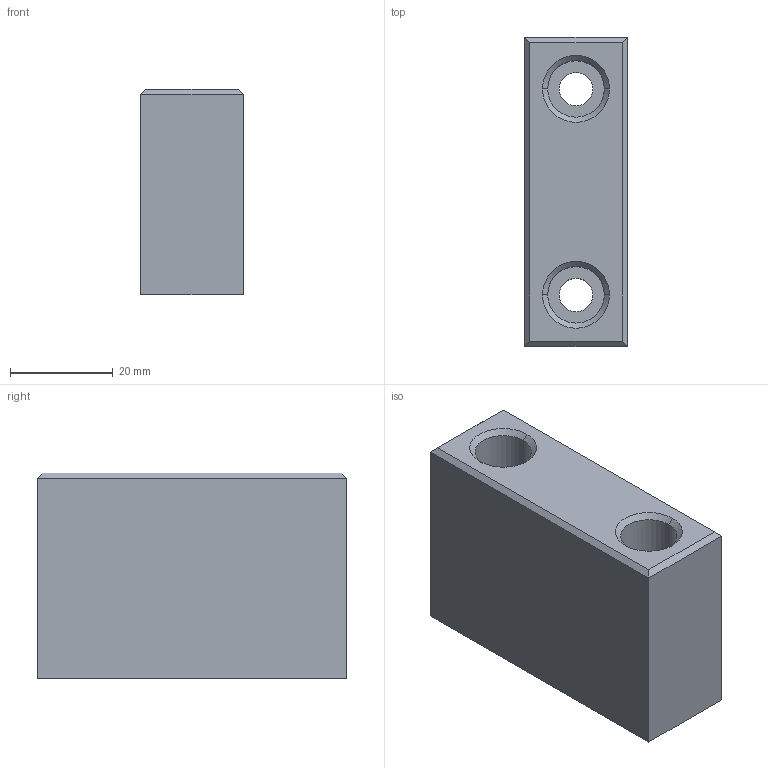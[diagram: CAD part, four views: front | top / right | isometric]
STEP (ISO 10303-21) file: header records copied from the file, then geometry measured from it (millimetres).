
FILE_DESCRIPTION(('CATIA V5 STEP Exchange'),'2;1');
FILE_NAME('C:\Users\Administrator\Desktop\汕德卡换档扶手\上盖板安装治具\上限位块-02\CXWK-7.stp','2021-12-03T02:40:15+00:00',('none'),('none'),'CATIA Version 5 Release 20 GA (IN-10)','CATIA V5 STEP AP203','none');
FILE_SCHEMA(('CONFIG_CONTROL_DESIGN'));
Length unit declared in the file: millimetre
Products named in the file (1): CXWK-7
Bounding box: 20 x 60 x 40 mm (x, y, z)
Volume: 41519 mm3; surface area: 11015.9 mm2
Topology: 1 solids, 1 shells, 24 faces, 52 edges, 32 vertices
Faces by surface type: plane 12, cylinder 8, cone 4
Entity records: 653 total; most frequent: CARTESIAN_POINT 108, ORIENTED_EDGE 104, DIRECTION 86, EDGE_CURVE 52, AXIS2_PLACEMENT_3D 40, VERTEX_POINT 32, EDGE_LOOP 30, VECTOR 28
